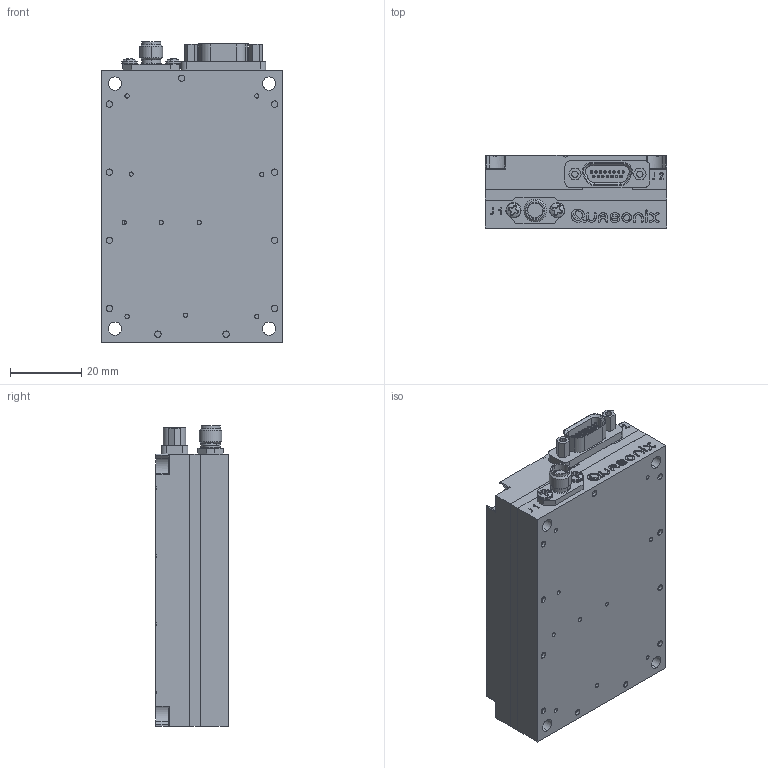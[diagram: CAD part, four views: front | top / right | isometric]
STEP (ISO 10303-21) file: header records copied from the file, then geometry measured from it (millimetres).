
FILE_DESCRIPTION (( 'STEP AP203' ), '1' );
FILE_NAME ('05AB_10-7-13.STEP', '2013-10-07T14:32:15', ( 'Quasonix' ), ( '' ), 'SwSTEP 2.0', 'SolidWorks 2012', '' );
FILE_SCHEMA (( 'CONFIG_CONTROL_DESIGN' ));
Length unit declared in the file: inch
Products named in the file (1): 05AB_10-7-13
Bounding box: 50.8 x 20.32 x 84.14 mm (x, y, z)
Surface area: 18489 mm2 (no closed solid volume)
Topology: 0 solids, 50 shells, 817 faces, 2501 edges, 1714 vertices
Faces by surface type: plane 410, cylinder 185, cone 138, bspline 70, torus 10, sphere 4
Entity records: 29708 total; most frequent: CARTESIAN_POINT 7959, ORIENTED_EDGE 4451, DIRECTION 4285, EDGE_CURVE 2475, VERTEX_POINT 1714, AXIS2_PLACEMENT_3D 1566, VECTOR 1153, LINE 1153
